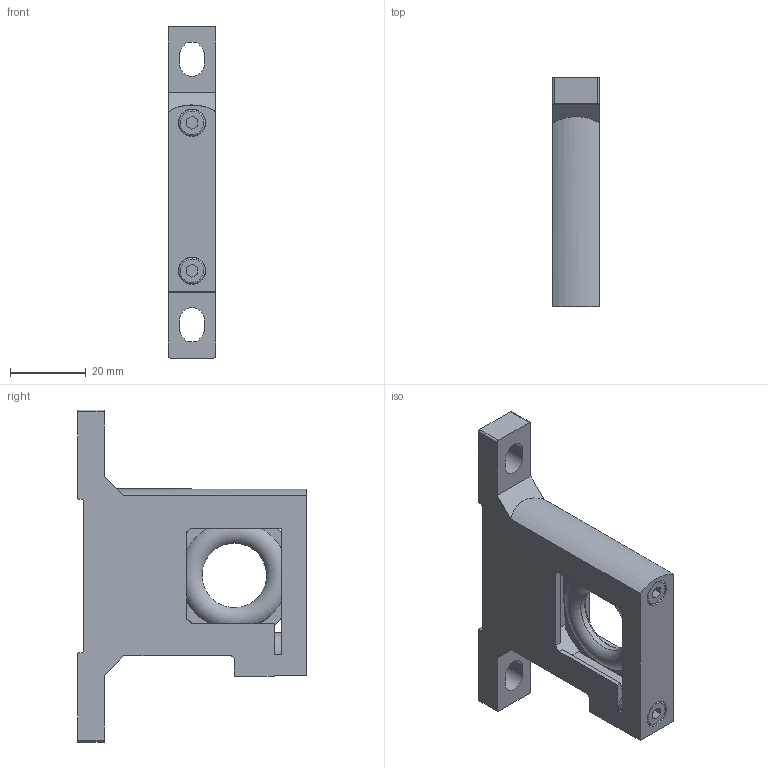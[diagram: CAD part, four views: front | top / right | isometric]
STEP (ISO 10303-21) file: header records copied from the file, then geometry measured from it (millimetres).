
FILE_DESCRIPTION(/* description */ ('Unknown'),/* implementation_level */ '2;1');
FILE_NAME(/* name */ 'BT-MACP302',/* time_stamp */ '2021-09-30T10:36:47+08:00',/* author */ ('Unknown'),/* organization */ ('Unknown'),/* preprocessor_version */ 'ST-DEVELOPER v16.7',/* originating_system */ 'DEX',/* authorisation */ $);
FILE_SCHEMA (('AUTOMOTIVE_DESIGN {1 0 10303 214 3 1 1}'));
Length unit declared in the file: millimetre
Products named in the file (1): Part2
Bounding box: 12.5 x 60.3 x 87.5 mm (x, y, z)
Volume: 21733.1 mm3; surface area: 14959.3 mm2
Topology: 1 solids, 5 shells, 173 faces, 470 edges, 309 vertices
Faces by surface type: plane 119, cylinder 39, torus 11, cone 4
Full cylindrical faces by diameter (mm): 3.4 x2, 3.5 x2, 4 x2, 4.4 x2, 7 x2, 7.2 x2, 17 x1
Entity records: 5229 total; most frequent: CARTESIAN_POINT 903, DIRECTION 871, ORIENTED_EDGE 864, EDGE_CURVE 432, LINE 339, VECTOR 339, VERTEX_POINT 294, AXIS2_PLACEMENT_3D 266
